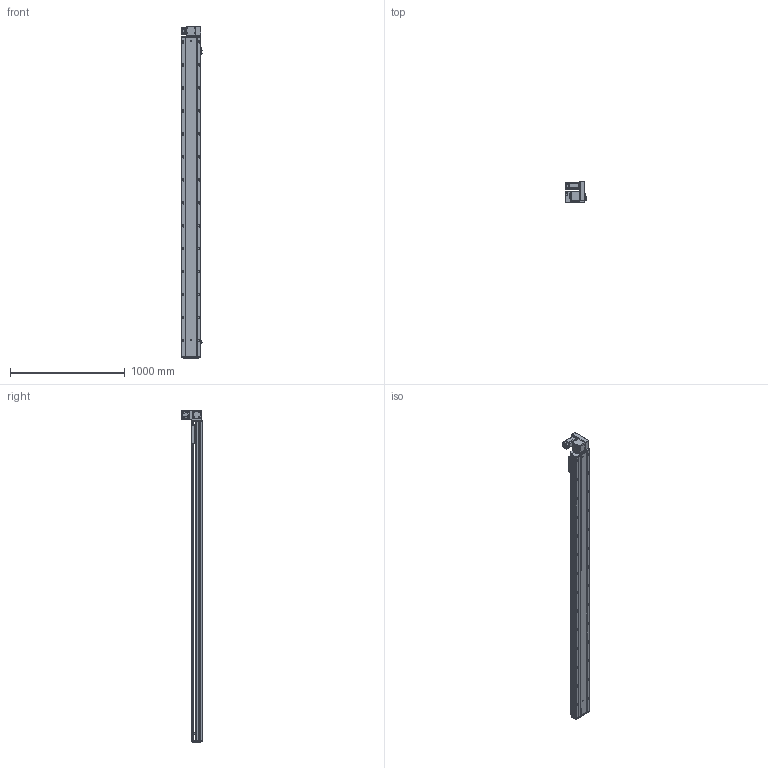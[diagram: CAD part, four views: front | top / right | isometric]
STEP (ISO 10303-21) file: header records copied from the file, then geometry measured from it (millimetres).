
FILE_DESCRIPTION (( 'STEP AP203' ), '1' );
FILE_NAME ('RY170-T-300-UR-P400W.SLDASM_2500.step', '2021-03-01T09:29:53', ( '盈信电脑' ), ( '东莞市道滘镇水果街19号' ), 'SwSTEP 2.0', 'SolidWorks 2012', '' );
FILE_SCHEMA (( 'CONFIG_CONTROL_DESIGN' ));
Length unit declared in the file: millimetre
Products named in the file (18): 滅袉蝶18-10; 15; RY170-T-300-UR-P400W.SLDASM_2500; RY170-T肮祭謫裔啣; RY170-T蹟翐M4; RY170-T肮祭湍揤踡輸2; RY120-T主同步轮轴承压盖; RY170肮祭謫萇儂欶; RY170-T肮祭湍揤踡輸1; RY170同步轮电机安装板(400W); RY170外置感应片(200共用）; RY170翋肮祭謫釱; 覜茼ん672; RY170肮祭謫ヶ裔啣; RY170綴裔啣; RY170-T-300肮祭謫倰第菁釱-DR_2500; RY170-T-300肮祭謫倰第裔啣-DR_2500; RY170肮祭湍臏賑輸
Assembly tree (22 placements, depth 2):
  RY170-T-300-UR-P400W.SLDASM_2500
    RY170-T-300肮祭謫倰第菁釱-DR_2500
    RY170肮祭湍臏賑輸
    RY170-T-300肮祭謫倰第裔啣-DR_2500
    RY170綴裔啣
    覜茼ん672  x3
    RY170外置感应片(200共用）
    RY170肮祭謫ヶ裔啣
    RY170翋肮祭謫釱
    RY170同步轮电机安装板(400W)
    RY170肮祭謫萇儂欶
    RY170-T肮祭湍揤踡輸1  x2
    RY170-T肮祭湍揤踡輸2  x2
    RY120-T主同步轮轴承压盖
    RY170-T肮祭謫裔啣
    RY170-T蹟翐M4
    滅袉蝶18-10  x2
    15
Bounding box: 183.7 x 182 x 2888 mm (x, y, z)
Volume: 13170756.2 mm3; surface area: 4558782.7 mm2
Topology: 22 solids, 22 shells, 3140 faces, 8850 edges, 5625 vertices
Faces by surface type: cylinder 1496, plane 1274, cone 340, bspline 30
Entity records: 96536 total; most frequent: CARTESIAN_POINT 22809, ORIENTED_EDGE 15200, DIRECTION 14732, EDGE_CURVE 7600, AXIS2_PLACEMENT_3D 5258, VERTEX_POINT 4981, LINE 4216, VECTOR 4216
